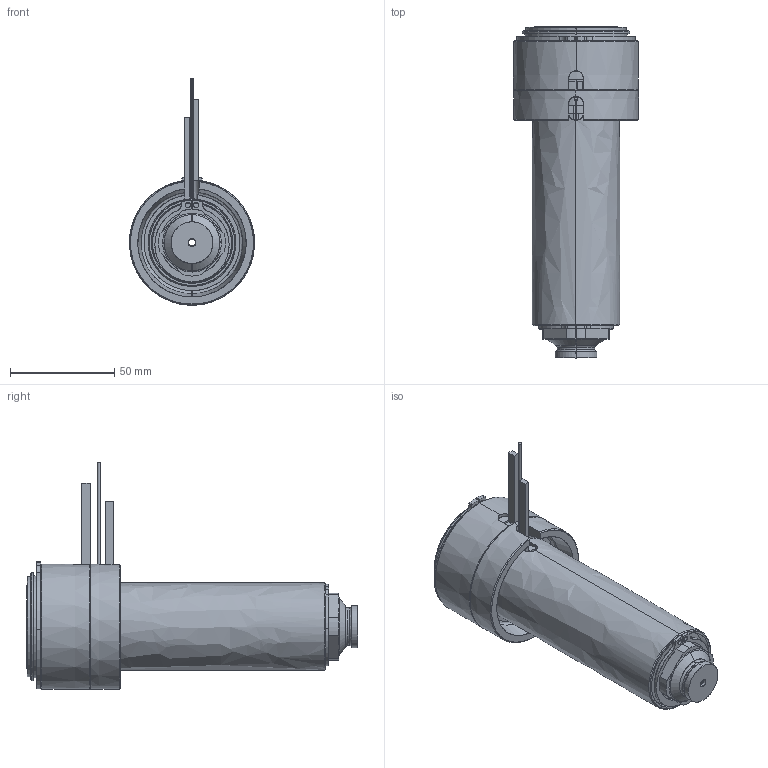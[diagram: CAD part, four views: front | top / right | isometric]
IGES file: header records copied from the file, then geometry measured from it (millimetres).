
Start section: SolidWorks IGES file using analytic representation for surfaces
Global section: file name: C:\Documents and Settings\ws-20\Desktop\TEM\UGER6605-M-A-1 [Øb-3.3 P-0 ØC-16].IGS; native system: SolidWorks 2012; preprocessor: SolidWorks 2012; author: ws-20; date: 120417.123736; units: millimetre
Bounding box: 60 x 159.25 x 108.65 mm (x, y, z)
Surface area: 92355.1 mm2 (no closed solid volume)
Topology: 0 solids, 0 shells, 164 faces, 3054 edges, 3054 vertices
Faces by surface type: revolution 98, bspline 66
